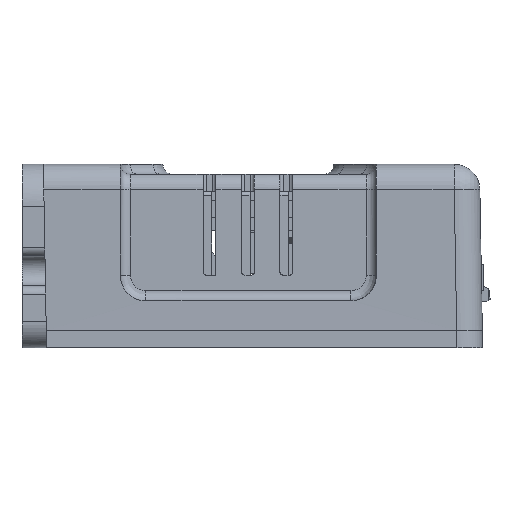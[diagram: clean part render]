
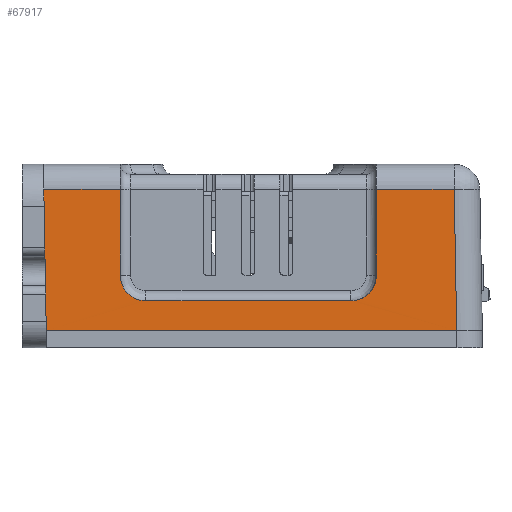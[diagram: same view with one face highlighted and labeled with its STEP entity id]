
A CAD part, left-side view. The second image highlights one B-rep face of the part: STEP entity #67917.
In plain terms, the highlighted planar face has unit normal (-1, 0, 0.018).
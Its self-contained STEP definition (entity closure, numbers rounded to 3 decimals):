
#1038 = ORIENTED_EDGE ( 'NONE', *, *, #96190, .F. ) ;
#2619 = VECTOR ( 'NONE', #91383, 1000. ) ;
#4957 = CARTESIAN_POINT ( 'NONE',  ( -206.213, 0., -0.5 ) ) ;
#5223 = LINE ( 'NONE', #83099, #2619 ) ;
#8110 = VECTOR ( 'NONE', #13311, 1000. ) ;
#8986 = EDGE_CURVE ( 'NONE', #16076, #56593, #85211, .T. ) ;
#10933 = VERTEX_POINT ( 'NONE', #60358 ) ;
#11340 = CARTESIAN_POINT ( 'NONE',  ( -205.924, -48.112, 16.052 ) ) ;
#13311 = DIRECTION ( 'NONE',  ( 0., -1., 0. ) ) ;
#13348 = EDGE_CURVE ( 'NONE', #100786, #95204, #24708, .T. ) ;
#13943 = EDGE_CURVE ( 'NONE', #47721, #10933, #55241, .T. ) ;
#16076 = VERTEX_POINT ( 'NONE', #78117 ) ;
#17144 = VERTEX_POINT ( 'NONE', #59815 ) ;
#19057 = DIRECTION ( 'NONE',  ( 1., 0., -0.017 ) ) ;
#21595 = ORIENTED_EDGE ( 'NONE', *, *, #95144, .F. ) ;
#24103 = CARTESIAN_POINT ( 'NONE',  ( -206.107, -9., 5.607 ) ) ;
#24708 = B_SPLINE_CURVE_WITH_KNOTS ( 'NONE', 3,
 ( #76750, #51785, #26831, #27192, #85058, #35444, #93357, #43821, #101676, #52153 ),
 .UNSPECIFIED., .F., .F.,
 ( 4, 2, 2, 2, 4 ),
 ( 0., 0.001, 0.002, 0.004, 0.005 ),
 .UNSPECIFIED. ) ;
#25044 = DIRECTION ( 'NONE',  ( 0., -1., 0. ) ) ;
#26138 = CARTESIAN_POINT ( 'NONE',  ( -205.924, -25.7, 16.052 ) ) ;
#26831 = CARTESIAN_POINT ( 'NONE',  ( -206.151, -36.785, 3.078 ) ) ;
#26883 = VECTOR ( 'NONE', #103845, 1000. ) ;
#27192 = CARTESIAN_POINT ( 'NONE',  ( -206.145, -37.511, 3.379 ) ) ;
#28075 = ORIENTED_EDGE ( 'NONE', *, *, #8986, .F. ) ;
#28103 = VECTOR ( 'NONE', #25044, 1000. ) ;
#30585 = EDGE_CURVE ( 'NONE', #17144, #99574, #36141, .T. ) ;
#31083 = DIRECTION ( 'NONE',  ( -0.017, -0.017, -1. ) ) ;
#32370 = CARTESIAN_POINT ( 'NONE',  ( -206.126, -9.378, 4.49 ) ) ;
#32406 = VECTOR ( 'NONE', #31083, 1000. ) ;
#35444 = CARTESIAN_POINT ( 'NONE',  ( -206.132, -38.399, 4.156 ) ) ;
#36045 = VERTEX_POINT ( 'NONE', #52876 ) ;
#36141 = LINE ( 'NONE', #97322, #32406 ) ;
#37738 = ORIENTED_EDGE ( 'NONE', *, *, #94164, .T. ) ;
#39577 = AXIS2_PLACEMENT_3D ( 'NONE', #93216, #19057, #76962 ) ;
#40759 = CARTESIAN_POINT ( 'NONE',  ( -206.142, -10.156, 3.601 ) ) ;
#43039 = VECTOR ( 'NONE', #86197, 1000. ) ;
#43821 = CARTESIAN_POINT ( 'NONE',  ( -206.113, -38.922, 5.215 ) ) ;
#44022 = EDGE_CURVE ( 'NONE', #95204, #16076, #90272, .T. ) ;
#44023 = ORIENTED_EDGE ( 'NONE', *, *, #30585, .T. ) ;
#45095 = ORIENTED_EDGE ( 'NONE', *, *, #13943, .F. ) ;
#45311 = CARTESIAN_POINT ( 'NONE',  ( -206.1, -39., 6. ) ) ;
#45630 = LINE ( 'NONE', #77878, #43039 ) ;
#45910 = VECTOR ( 'NONE', #75691, 1000. ) ;
#45959 = CARTESIAN_POINT ( 'NONE',  ( -206.213, -39., -0.5 ) ) ;
#46380 = VECTOR ( 'NONE', #55961, 1000. ) ;
#47721 = VERTEX_POINT ( 'NONE', #101343 ) ;
#49049 = CARTESIAN_POINT ( 'NONE',  ( -206.151, -11.215, 3.078 ) ) ;
#50100 = LINE ( 'NONE', #66310, #28103 ) ;
#51785 = CARTESIAN_POINT ( 'NONE',  ( -206.152, -36.393, 3. ) ) ;
#52153 = CARTESIAN_POINT ( 'NONE',  ( -206.1, -39., 6. ) ) ;
#52175 = LINE ( 'NONE', #4957, #8110 ) ;
#52876 = CARTESIAN_POINT ( 'NONE',  ( -206.213, -48.4, -0.5 ) ) ;
#55241 = B_SPLINE_CURVE_WITH_KNOTS ( 'NONE', 3,
 ( #73671, #24103, #82017, #32370, #90297, #40759, #98630, #49049, #106929, #57417 ),
 .UNSPECIFIED., .F., .F.,
 ( 4, 2, 2, 2, 4 ),
 ( 0., 0.001, 0.002, 0.004, 0.005 ),
 .UNSPECIFIED. ) ;
#55961 = DIRECTION ( 'NONE',  ( 0., -1., 0. ) ) ;
#56593 = VERTEX_POINT ( 'NONE', #11340 ) ;
#57192 = FACE_OUTER_BOUND ( 'NONE', #94097, .T. ) ;
#57417 = CARTESIAN_POINT ( 'NONE',  ( -206.147, -12., 3. ) ) ;
#59815 = CARTESIAN_POINT ( 'NONE',  ( -205.924, -0.051, 16.052 ) ) ;
#60358 = CARTESIAN_POINT ( 'NONE',  ( -206.147, -12., 3. ) ) ;
#65617 = ORIENTED_EDGE ( 'NONE', *, *, #44022, .F. ) ;
#66310 = CARTESIAN_POINT ( 'NONE',  ( -206.152, -12., 3. ) ) ;
#67917 = ADVANCED_FACE ( 'NONE', ( #57192 ), #68668, .F. ) ;
#67936 = LINE ( 'NONE', #26138, #45910 ) ;
#68668 = PLANE ( 'NONE',  #39577 ) ;
#73089 = EDGE_CURVE ( 'NONE', #17144, #89767, #67936, .T. ) ;
#73671 = CARTESIAN_POINT ( 'NONE',  ( -206.1, -9., 6. ) ) ;
#75691 = DIRECTION ( 'NONE',  ( 0., -1., 0. ) ) ;
#76750 = CARTESIAN_POINT ( 'NONE',  ( -206.147, -36., 3. ) ) ;
#76962 = DIRECTION ( 'NONE',  ( -0.017, 0., -1. ) ) ;
#77878 = CARTESIAN_POINT ( 'NONE',  ( -205.924, -48.112, 16.052 ) ) ;
#78117 = CARTESIAN_POINT ( 'NONE',  ( -205.924, -39., 16.052 ) ) ;
#80986 = CARTESIAN_POINT ( 'NONE',  ( -205.924, -9., 16.052 ) ) ;
#82017 = CARTESIAN_POINT ( 'NONE',  ( -206.113, -9.078, 5.215 ) ) ;
#83099 = CARTESIAN_POINT ( 'NONE',  ( -206.213, -9., -0.5 ) ) ;
#85058 = CARTESIAN_POINT ( 'NONE',  ( -206.142, -37.844, 3.601 ) ) ;
#85211 = LINE ( 'NONE', #97144, #46380 ) ;
#86197 = DIRECTION ( 'NONE',  ( -0.017, -0.017, -1. ) ) ;
#89767 = VERTEX_POINT ( 'NONE', #80986 ) ;
#90272 = LINE ( 'NONE', #45959, #26883 ) ;
#90297 = CARTESIAN_POINT ( 'NONE',  ( -206.132, -9.601, 4.157 ) ) ;
#91383 = DIRECTION ( 'NONE',  ( -0.017, 0., -1. ) ) ;
#93216 = CARTESIAN_POINT ( 'NONE',  ( -206.213, -25.7, -0.5 ) ) ;
#93357 = CARTESIAN_POINT ( 'NONE',  ( -206.126, -38.621, 4.489 ) ) ;
#94097 = EDGE_LOOP ( 'NONE', ( #96718, #45095, #1038, #106376, #44023, #37738, #21595, #28075, #65617, #104437 ) ) ;
#94164 = EDGE_CURVE ( 'NONE', #99574, #36045, #52175, .T. ) ;
#95144 = EDGE_CURVE ( 'NONE', #56593, #36045, #45630, .T. ) ;
#95204 = VERTEX_POINT ( 'NONE', #45311 ) ;
#96190 = EDGE_CURVE ( 'NONE', #89767, #47721, #5223, .T. ) ;
#96718 = ORIENTED_EDGE ( 'NONE', *, *, #99716, .F. ) ;
#97144 = CARTESIAN_POINT ( 'NONE',  ( -205.924, -25.7, 16.052 ) ) ;
#97322 = CARTESIAN_POINT ( 'NONE',  ( -205.924, -0.051, 16.052 ) ) ;
#98630 = CARTESIAN_POINT ( 'NONE',  ( -206.145, -10.489, 3.379 ) ) ;
#99574 = VERTEX_POINT ( 'NONE', #105722 ) ;
#99716 = EDGE_CURVE ( 'NONE', #10933, #100786, #50100, .T. ) ;
#100786 = VERTEX_POINT ( 'NONE', #105477 ) ;
#101343 = CARTESIAN_POINT ( 'NONE',  ( -206.1, -9., 6. ) ) ;
#101676 = CARTESIAN_POINT ( 'NONE',  ( -206.107, -39., 5.607 ) ) ;
#103845 = DIRECTION ( 'NONE',  ( 0.017, 0., 1. ) ) ;
#104437 = ORIENTED_EDGE ( 'NONE', *, *, #13348, .F. ) ;
#105477 = CARTESIAN_POINT ( 'NONE',  ( -206.147, -36., 3. ) ) ;
#105722 = CARTESIAN_POINT ( 'NONE',  ( -206.213, -0.34, -0.5 ) ) ;
#106376 = ORIENTED_EDGE ( 'NONE', *, *, #73089, .F. ) ;
#106929 = CARTESIAN_POINT ( 'NONE',  ( -206.152, -11.607, 3. ) ) ;
